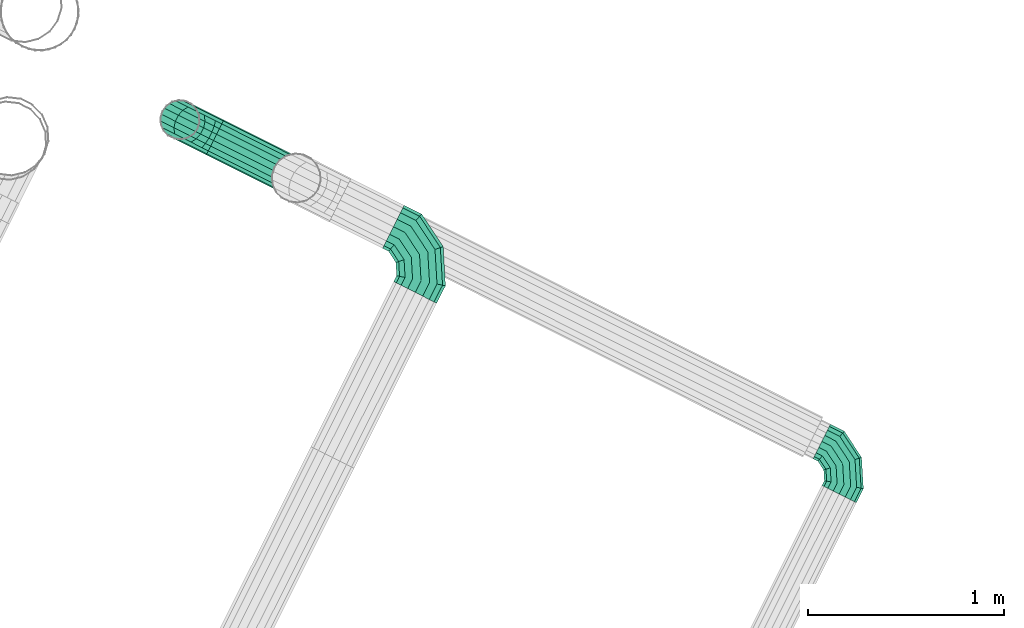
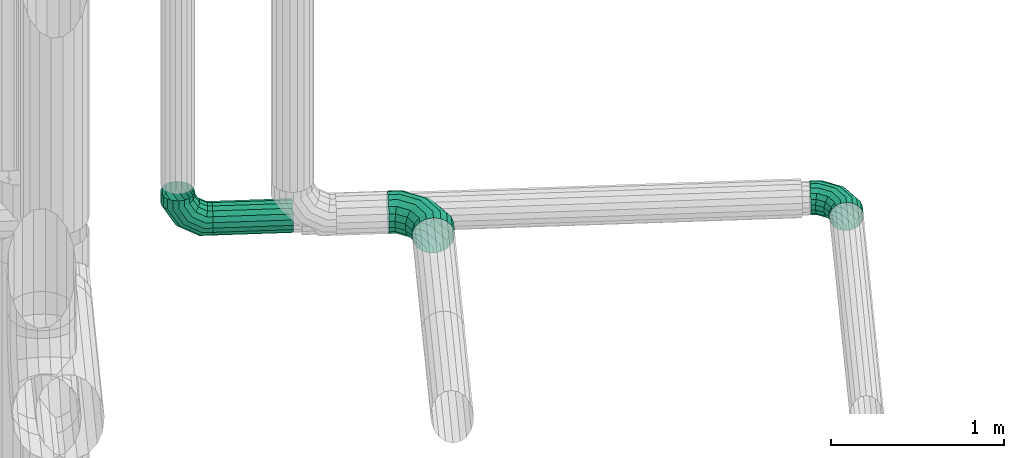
# One storey, part 164 of 206: 3 flow fittings, 1 flow segment.
"""IFC2X3 building model written with IfcOpenShell, lengths in metres."""

from ifc_helpers import new_model, si_unit, derived_unit, direction, frame, origin, place, context, subcontext, project, spatial, face_set, surface_model, source, transform, mapped, material, type_object, type_shapes, element, save


model = new_model("IFC2X3")

# Units and contexts
model_context = context("Model", 3, precision=5.2338327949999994e-05, world=origin(), true_north=direction((0.0, 1.0)))
body_context = subcontext(model_context, "Body", "Model", "MODEL_VIEW")
ifc_project = project(units=[si_unit("LENGTHUNIT", "METRE"), si_unit("AREAUNIT", "SQUARE_METRE"), si_unit("VOLUMEUNIT", "CUBIC_METRE"), si_unit("MASSUNIT", "GRAM", prefix="KILO"), si_unit("PLANEANGLEUNIT", "RADIAN"), derived_unit("THERMALTRANSMITTANCEUNIT", [(si_unit("MASSUNIT", "GRAM", prefix="KILO"), 1), (si_unit("THERMODYNAMICTEMPERATUREUNIT", "KELVIN"), -1), (si_unit("TIMEUNIT", "SECOND"), -3)])], contexts=[model_context])

# Site, building, storey
site_placement = place(None, frame((0.0, 0.0, 0.0), z_axis=(0.0, 0.0, 1.0), x_axis=(0.8939966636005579, -0.4480736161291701, 0.0)))
site = spatial("IfcSite", under=ifc_project, at=site_placement, Name="Default", CompositionType="ELEMENT")
building_placement = place(site_placement, origin())
building = spatial("IfcBuilding", under=site, at=building_placement, CompositionType="ELEMENT")
storey_placement = place(building_placement, origin())
storey = spatial("IfcBuildingStorey", under=building, at=storey_placement, Name="Erdgeschoss", CompositionType="ELEMENT", Elevation=0.0)

# Flow fittings
ifc_material = material(Name="IfcSurfaceStyle #251447")
distribution_element_type_1 = type_object("IfcDistributionElementType", Name="Segmentbogen 4 teilig 293676:Segmentbogen 4 teilig 293676", material=ifc_material)
shared_shape_1 = source(origin(), body_context, "Body", "SurfaceModel", [
    surface_model("IfcFaceBasedSurfaceModel", [(28.73772098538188, 15.98711232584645, 2.075), (28.69496846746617, 15.98711232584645, 2.082538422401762), (28.69496846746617, 16.04264412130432, 2.082538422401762), (28.73772098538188, 16.054099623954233, 2.075), (28.657372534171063, 15.98711232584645, 2.1042444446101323), (28.657372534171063, 16.0325703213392, 2.1042444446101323), (28.629467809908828, 15.98711232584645, 2.137500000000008), (28.629467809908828, 16.025093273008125, 2.137500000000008), (28.614620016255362, 15.98711232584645, 2.178293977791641), (28.614620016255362, 16.02111481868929, 2.178293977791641), (28.614620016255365, 15.98711232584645, 2.221706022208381), (28.614620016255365, 16.02111481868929, 2.221706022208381), (28.629467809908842, 15.98711232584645, 2.2625000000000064), (28.629467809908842, 16.025093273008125, 2.2625000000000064), (28.657372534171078, 15.98711232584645, 2.295755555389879), (28.657372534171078, 16.0325703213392, 2.295755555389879), (28.694968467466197, 15.98711232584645, 2.3174615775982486), (28.694968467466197, 16.04264412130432, 2.3174615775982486), (28.737720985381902, 15.98711232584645, 2.324999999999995), (28.737720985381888, 16.054099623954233, 2.324999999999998), (28.780473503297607, 15.98711232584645, 2.3174615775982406), (28.780473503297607, 16.065555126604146, 2.3174615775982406), (28.818069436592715, 15.98711232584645, 2.295755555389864), (28.818069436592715, 16.075628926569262, 2.295755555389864), (28.845974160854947, 15.98711232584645, 2.262499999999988), (28.845974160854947, 16.08310597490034, 2.262499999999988), (28.860821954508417, 15.98711232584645, 2.221706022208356), (28.860821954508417, 16.08708442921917, 2.221706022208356), (28.860821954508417, 15.98711232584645, 2.1782939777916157), (28.860821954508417, 16.08708442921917, 2.1782939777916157), (28.84597416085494, 15.98711232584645, 2.1374999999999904), (28.84597416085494, 16.08310597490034, 2.1374999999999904), (28.818069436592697, 15.98711232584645, 2.104244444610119), (28.818069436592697, 16.075628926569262, 2.104244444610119), (28.78047350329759, 15.98711232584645, 2.0825384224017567), (28.78047350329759, 16.065555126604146, 2.0825384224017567), (28.639436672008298, 16.13882801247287, 2.0825384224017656), (28.6707336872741, 16.17012502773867, 2.0750000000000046), (28.611914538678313, 16.111305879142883, 2.1042444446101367), (28.591486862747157, 16.090878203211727, 2.1375000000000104), (28.580617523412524, 16.080008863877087, 2.1782939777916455), (28.580617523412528, 16.080008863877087, 2.2217060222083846), (28.59148686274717, 16.090878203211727, 2.262500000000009), (28.61191453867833, 16.111305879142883, 2.2957555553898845), (28.639436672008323, 16.13882801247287, 2.317461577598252), (28.67073368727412, 16.17012502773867, 2.3250000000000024), (28.702030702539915, 16.201422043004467, 2.3174615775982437), (28.729552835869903, 16.22894417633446, 2.2957555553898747), (28.74998051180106, 16.249371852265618, 2.2624999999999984), (28.7608498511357, 16.260241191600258, 2.221706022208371), (28.760849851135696, 16.260241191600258, 2.17829397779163), (28.74998051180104, 16.249371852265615, 2.1375), (28.729552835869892, 16.22894417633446, 2.1042444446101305), (28.702030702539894, 16.20142204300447, 2.08253842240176), (28.543252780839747, 16.194359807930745, 2.0825384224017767), (28.554708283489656, 16.237112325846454, 2.075000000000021), (28.533178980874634, 16.156763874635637, 2.1042444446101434), (28.525701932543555, 16.128859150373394, 2.1375000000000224), (28.521723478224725, 16.114011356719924, 2.1782939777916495), (28.521723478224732, 16.114011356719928, 2.2217060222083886), (28.525701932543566, 16.128859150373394, 2.262500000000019), (28.53317898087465, 16.156763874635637, 2.295755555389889), (28.54325278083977, 16.194359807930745, 2.31746157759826), (28.554708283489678, 16.237112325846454, 2.3250000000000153), (28.56616378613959, 16.279864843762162, 2.3174615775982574), (28.576237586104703, 16.31746077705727, 2.2957555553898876), (28.583714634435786, 16.345365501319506, 2.2625000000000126), (28.587693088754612, 16.36021329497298, 2.221706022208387), (28.587693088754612, 16.360213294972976, 2.178293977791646), (28.583714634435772, 16.345365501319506, 2.137500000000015), (28.576237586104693, 16.31746077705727, 2.1042444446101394), (28.566163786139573, 16.279864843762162, 2.0825384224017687), (28.48772098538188, 16.194359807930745, 2.08253842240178), (28.48772098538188, 16.237112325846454, 2.075000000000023), (28.48772098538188, 16.156763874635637, 2.1042444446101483), (28.487720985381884, 16.128859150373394, 2.1375000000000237), (28.487720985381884, 16.114011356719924, 2.178293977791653), (28.487720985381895, 16.114011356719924, 2.221706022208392), (28.487720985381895, 16.128859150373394, 2.262500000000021), (28.487720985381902, 16.156763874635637, 2.295755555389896), (28.487720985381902, 16.194359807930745, 2.3174615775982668), (28.487720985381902, 16.237112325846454, 2.3250000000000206), (28.487720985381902, 16.279864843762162, 2.3174615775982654), (28.487720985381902, 16.31746077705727, 2.295755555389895), (28.487720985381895, 16.345365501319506, 2.262500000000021), (28.487720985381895, 16.36021329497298, 2.221706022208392), (28.487720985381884, 16.36021329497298, 2.178293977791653), (28.487720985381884, 16.345365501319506, 2.1375000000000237), (28.48772098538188, 16.31746077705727, 2.1042444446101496), (28.48772098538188, 16.279864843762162, 2.0825384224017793)], [face_set([[[0, 1, 2, 3]], [[1, 4, 5, 2]], [[4, 6, 7, 5]], [[6, 8, 9, 7]], [[8, 10, 11, 9]], [[10, 12, 13, 11]], [[12, 14, 15, 13]], [[14, 16, 17, 15]], [[16, 18, 19, 17]], [[18, 20, 21, 19]], [[20, 22, 23, 21]], [[22, 24, 25, 23]], [[24, 26, 27, 25]], [[26, 28, 29, 27]], [[28, 30, 31, 29]], [[30, 32, 33, 31]], [[32, 34, 35, 33]], [[34, 0, 3, 35]], [[3, 2, 36, 37]], [[2, 5, 38, 36]], [[5, 7, 39, 38]], [[7, 9, 40, 39]], [[9, 11, 41, 40]], [[11, 13, 42, 41]], [[13, 15, 43, 42]], [[15, 17, 44, 43]], [[17, 19, 45, 44]], [[19, 21, 46, 45]], [[21, 23, 47, 46]], [[23, 25, 48, 47]], [[25, 27, 49, 48]], [[27, 29, 50, 49]], [[29, 31, 51, 50]], [[31, 33, 52, 51]], [[33, 35, 53, 52]], [[35, 3, 37, 53]], [[37, 36, 54, 55]], [[36, 38, 56, 54]], [[38, 39, 57, 56]], [[39, 40, 58, 57]], [[40, 41, 59, 58]], [[41, 42, 60, 59]], [[42, 43, 61, 60]], [[43, 44, 62, 61]], [[44, 45, 63, 62]], [[45, 46, 64, 63]], [[46, 47, 65, 64]], [[47, 48, 66, 65]], [[48, 49, 67, 66]], [[49, 50, 68, 67]], [[50, 51, 69, 68]], [[51, 52, 70, 69]], [[52, 53, 71, 70]], [[53, 37, 55, 71]], [[55, 54, 72, 73]], [[54, 56, 74, 72]], [[56, 57, 75, 74]], [[57, 58, 76, 75]], [[58, 59, 77, 76]], [[59, 60, 78, 77]], [[60, 61, 79, 78]], [[61, 62, 80, 79]], [[62, 63, 81, 80]], [[63, 64, 82, 81]], [[64, 65, 83, 82]], [[65, 66, 84, 83]], [[66, 67, 85, 84]], [[67, 68, 86, 85]], [[68, 69, 87, 86]], [[69, 70, 88, 87]], [[70, 71, 89, 88]], [[71, 55, 73, 89]]])]),
])
type_shapes(distribution_element_type_1, [shared_shape_1])
flow_fitting_1_placement = place(storey_placement, origin())
element("IfcFlowFitting", 1, at=flow_fitting_1_placement, inside=storey, type_object=distribution_element_type_1, material=ifc_material, Name="Segmentbogen 4 teilig", ObjectType="Segmentbogen 4 teilig", context=body_context, shape_type="MappedRepresentation", body=[
    mapped(shared_shape_1, transform((0.0, 0.0, 0.0), scale=1.0)),
])
distribution_element_type_2 = type_object("IfcDistributionElementType", Name="Segmentbogen 4 teilig 617944:Segmentbogen 4 teilig 617944", material=ifc_material)
shared_shape_2 = source(origin(), body_context, "Body", "SurfaceModel", [
    surface_model("IfcFaceBasedSurfaceModel", [(30.935087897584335, 16.23711232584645, 2.3000000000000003), (30.935087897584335, 16.202910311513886, 2.293969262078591), (30.979513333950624, 16.202910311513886, 2.293969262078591), (30.988677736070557, 16.23711232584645, 2.3000000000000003), (30.935087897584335, 16.172833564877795, 2.276604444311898), (30.971454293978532, 16.172833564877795, 2.276604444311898), (30.935087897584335, 16.150509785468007, 2.250000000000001), (30.96547265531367, 16.150509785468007, 2.250000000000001), (30.935087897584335, 16.13863155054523, 2.217364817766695), (30.962289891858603, 16.13863155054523, 2.217364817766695), (30.935087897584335, 16.138631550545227, 2.1826351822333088), (30.962289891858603, 16.138631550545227, 2.1826351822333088), (30.935087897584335, 16.150509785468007, 2.1500000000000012), (30.96547265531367, 16.150509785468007, 2.1500000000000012), (30.935087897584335, 16.172833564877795, 2.123395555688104), (30.971454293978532, 16.172833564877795, 2.123395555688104), (30.935087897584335, 16.202910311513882, 2.1060307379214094), (30.979513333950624, 16.202910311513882, 2.1060307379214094), (30.935087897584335, 16.23711232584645, 2.0999999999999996), (30.988677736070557, 16.23711232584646, 2.100000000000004), (30.935087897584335, 16.271314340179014, 2.10603073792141), (30.99784213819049, 16.271314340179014, 2.10603073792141), (30.935087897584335, 16.3013910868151, 2.1233955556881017), (31.00590117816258, 16.3013910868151, 2.1233955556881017), (30.935087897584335, 16.323714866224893, 2.1499999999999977), (31.01188281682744, 16.323714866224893, 2.1499999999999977), (30.935087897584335, 16.335593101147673, 2.1826351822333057), (31.015065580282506, 16.335593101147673, 2.1826351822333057), (30.935087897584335, 16.335593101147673, 2.2173648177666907), (31.015065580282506, 16.335593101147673, 2.2173648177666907), (30.935087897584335, 16.323714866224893, 2.249999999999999), (31.01188281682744, 16.323714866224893, 2.249999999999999), (30.935087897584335, 16.3013910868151, 2.2766044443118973), (31.00590117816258, 16.3013910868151, 2.2766044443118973), (30.935087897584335, 16.271314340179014, 2.293969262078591), (30.99784213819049, 16.271314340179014, 2.293969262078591), (31.05646044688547, 16.158484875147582, 2.293969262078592), (31.081498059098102, 16.183522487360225, 2.3000000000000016), (31.034442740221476, 16.136467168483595, 2.2766044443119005), (31.018100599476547, 16.120125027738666, 2.250000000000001), (31.00940512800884, 16.111429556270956, 2.2173648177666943), (31.00940512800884, 16.111429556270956, 2.182635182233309), (31.018100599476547, 16.12012502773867, 2.1500000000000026), (31.034442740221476, 16.13646716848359, 2.1233955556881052), (31.05646044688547, 16.158484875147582, 2.1060307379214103), (31.081498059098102, 16.183522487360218, 2.1000000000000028), (31.10653567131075, 16.20856009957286, 2.106030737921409), (31.12855337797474, 16.23057780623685, 2.123395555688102), (31.144895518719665, 16.24691994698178, 2.1500000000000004), (31.15359099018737, 16.25561541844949, 2.1826351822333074), (31.15359099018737, 16.255615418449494, 2.217364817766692), (31.144895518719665, 16.246919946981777, 2.2499999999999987), (31.12855337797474, 16.23057780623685, 2.2766044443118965), (31.10653567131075, 16.20856009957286, 2.29396926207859), (31.10088588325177, 16.081537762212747, 2.293969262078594), (31.135087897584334, 16.090702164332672, 2.300000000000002), (31.070809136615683, 16.073478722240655, 2.276604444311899), (31.048485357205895, 16.067497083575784, 2.2500000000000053), (31.036607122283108, 16.06431432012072, 2.2173648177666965), (31.036607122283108, 16.06431432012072, 2.1826351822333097), (31.048485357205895, 16.067497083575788, 2.150000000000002), (31.070809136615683, 16.073478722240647, 2.1233955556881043), (31.10088588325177, 16.081537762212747, 2.1060307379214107), (31.135087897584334, 16.090702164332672, 2.1000000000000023), (31.169289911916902, 16.0998665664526, 2.106030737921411), (31.19936665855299, 16.107925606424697, 2.123395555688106), (31.221690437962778, 16.113907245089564, 2.1500000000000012), (31.233568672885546, 16.117090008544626, 2.182635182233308), (31.233568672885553, 16.117090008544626, 2.2173648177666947), (31.221690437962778, 16.113907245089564, 2.250000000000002), (31.19936665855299, 16.107925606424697, 2.276604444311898), (31.169289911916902, 16.0998665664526, 2.293969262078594), (31.100885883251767, 16.03711232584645, 2.2939692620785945), (31.135087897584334, 16.037112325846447, 2.300000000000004), (31.070809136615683, 16.037112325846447, 2.276604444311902), (31.048485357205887, 16.03711232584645, 2.250000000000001), (31.036607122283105, 16.03711232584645, 2.2173648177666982), (31.036607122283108, 16.03711232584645, 2.18263518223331), (31.048485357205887, 16.03711232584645, 2.1500000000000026), (31.070809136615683, 16.037112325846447, 2.1233955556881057), (31.100885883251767, 16.037112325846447, 2.1060307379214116), (31.135087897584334, 16.037112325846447, 2.1000000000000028), (31.169289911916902, 16.037112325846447, 2.106030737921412), (31.199366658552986, 16.037112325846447, 2.1233955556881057), (31.221690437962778, 16.03711232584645, 2.1500000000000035), (31.233568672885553, 16.03711232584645, 2.182635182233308), (31.233568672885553, 16.03711232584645, 2.217364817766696), (31.221690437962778, 16.03711232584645, 2.250000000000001), (31.19936665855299, 16.037112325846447, 2.2766044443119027), (31.169289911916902, 16.03711232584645, 2.2939692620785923)], [face_set([[[0, 1, 2, 3]], [[1, 4, 5, 2]], [[4, 6, 7, 5]], [[6, 8, 9, 7]], [[8, 10, 11, 9]], [[10, 12, 13, 11]], [[12, 14, 15, 13]], [[14, 16, 17, 15]], [[16, 18, 19, 17]], [[18, 20, 21, 19]], [[20, 22, 23, 21]], [[22, 24, 25, 23]], [[24, 26, 27, 25]], [[26, 28, 29, 27]], [[28, 30, 31, 29]], [[30, 32, 33, 31]], [[32, 34, 35, 33]], [[34, 0, 3, 35]], [[3, 2, 36, 37]], [[2, 5, 38, 36]], [[5, 7, 39, 38]], [[7, 9, 40, 39]], [[9, 11, 41, 40]], [[11, 13, 42, 41]], [[13, 15, 43, 42]], [[15, 17, 44, 43]], [[17, 19, 45, 44]], [[19, 21, 46, 45]], [[21, 23, 47, 46]], [[23, 25, 48, 47]], [[25, 27, 49, 48]], [[27, 29, 50, 49]], [[29, 31, 51, 50]], [[31, 33, 52, 51]], [[33, 35, 53, 52]], [[35, 3, 37, 53]], [[37, 36, 54, 55]], [[36, 38, 56, 54]], [[38, 39, 57, 56]], [[39, 40, 58, 57]], [[40, 41, 59, 58]], [[41, 42, 60, 59]], [[42, 43, 61, 60]], [[43, 44, 62, 61]], [[44, 45, 63, 62]], [[45, 46, 64, 63]], [[46, 47, 65, 64]], [[47, 48, 66, 65]], [[48, 49, 67, 66]], [[49, 50, 68, 67]], [[50, 51, 69, 68]], [[51, 52, 70, 69]], [[52, 53, 71, 70]], [[53, 37, 55, 71]], [[55, 54, 72, 73]], [[54, 56, 74, 72]], [[56, 57, 75, 74]], [[57, 58, 76, 75]], [[58, 59, 77, 76]], [[59, 60, 78, 77]], [[60, 61, 79, 78]], [[61, 62, 80, 79]], [[62, 63, 81, 80]], [[63, 64, 82, 81]], [[64, 65, 83, 82]], [[65, 66, 84, 83]], [[66, 67, 85, 84]], [[67, 68, 86, 85]], [[68, 69, 87, 86]], [[69, 70, 88, 87]], [[70, 71, 89, 88]], [[71, 55, 73, 89]]])]),
])
type_shapes(distribution_element_type_2, [shared_shape_2])
flow_fitting_2_placement = place(storey_placement, origin())
element("IfcFlowFitting", 2, at=flow_fitting_2_placement, inside=storey, type_object=distribution_element_type_2, material=ifc_material, Name="Segmentbogen 4 teilig", ObjectType="Segmentbogen 4 teilig", context=body_context, shape_type="MappedRepresentation", body=[
    mapped(shared_shape_2, transform((0.0, 0.0, 0.0), scale=1.0)),
])
distribution_element_type_3 = type_object("IfcDistributionElementType", Name="Segmentbogen 4 teilig 618684:Segmentbogen 4 teilig 618684", material=ifc_material)
shared_shape_3 = source(origin(), body_context, "Body", "SurfaceModel", [
    surface_model("IfcFaceBasedSurfaceModel", [(27.269385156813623, 16.33711232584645, 2.3999999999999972), (27.303587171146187, 16.33108158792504, 2.3999999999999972), (27.303587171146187, 16.33108158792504, 2.355574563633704), (27.269385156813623, 16.33711232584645, 2.346410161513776), (27.333663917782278, 16.31371677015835, 2.3999999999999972), (27.333663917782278, 16.31371677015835, 2.363633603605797), (27.355987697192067, 16.287112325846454, 2.3999999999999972), (27.355987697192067, 16.287112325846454, 2.3696152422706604), (27.367865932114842, 16.254477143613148, 2.3999999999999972), (27.367865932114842, 16.254477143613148, 2.3727980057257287), (27.367865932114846, 16.21974750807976, 2.3999999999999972), (27.367865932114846, 16.21974750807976, 2.3727980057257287), (27.355987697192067, 16.18711232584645, 2.3999999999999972), (27.355987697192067, 16.18711232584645, 2.3696152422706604), (27.33366391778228, 16.160507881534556, 2.3999999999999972), (27.33366391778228, 16.160507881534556, 2.363633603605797), (27.303587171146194, 16.14314306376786, 2.3999999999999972), (27.303587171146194, 16.14314306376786, 2.355574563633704), (27.269385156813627, 16.13711232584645, 2.3999999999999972), (27.269385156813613, 16.137112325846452, 2.346410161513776), (27.235183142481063, 16.14314306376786, 2.3999999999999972), (27.235183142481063, 16.14314306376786, 2.3372457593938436), (27.205106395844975, 16.160507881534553, 2.3999999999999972), (27.205106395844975, 16.160507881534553, 2.329186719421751), (27.182782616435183, 16.18711232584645, 2.3999999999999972), (27.182782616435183, 16.18711232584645, 2.3232050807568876), (27.170904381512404, 16.219747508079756, 2.3999999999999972), (27.170904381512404, 16.219747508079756, 2.320022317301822), (27.170904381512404, 16.25447714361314, 2.3999999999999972), (27.170904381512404, 16.25447714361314, 2.320022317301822), (27.182782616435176, 16.28711232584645, 2.3999999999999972), (27.182782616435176, 16.28711232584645, 2.3232050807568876), (27.20510639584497, 16.313716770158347, 2.3999999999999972), (27.20510639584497, 16.313716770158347, 2.329186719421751), (27.235183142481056, 16.33108158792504, 2.3999999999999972), (27.235183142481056, 16.33108158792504, 2.3372457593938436), (27.348012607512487, 16.331081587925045, 2.2786274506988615), (27.322974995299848, 16.33711232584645, 2.2535898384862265), (27.37003031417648, 16.31371677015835, 2.3006451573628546), (27.386372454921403, 16.287112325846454, 2.3169872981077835), (27.39506792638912, 16.254477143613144, 2.3256827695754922), (27.39506792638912, 16.21974750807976, 2.325682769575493), (27.386372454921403, 16.18711232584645, 2.316987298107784), (27.370030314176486, 16.160507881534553, 2.3006451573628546), (27.348012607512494, 16.14314306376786, 2.278627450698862), (27.32297499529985, 16.137112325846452, 2.2535898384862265), (27.297937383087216, 16.143143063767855, 2.228552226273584), (27.275919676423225, 16.16050788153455, 2.2065345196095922), (27.259577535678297, 16.18711232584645, 2.1901923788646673), (27.25088206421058, 16.21974750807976, 2.181496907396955), (27.25088206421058, 16.254477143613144, 2.1814969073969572), (27.259577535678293, 16.28711232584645, 2.190192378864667), (27.275919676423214, 16.31371677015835, 2.206534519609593), (27.297937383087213, 16.331081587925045, 2.2285522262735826), (27.424959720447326, 16.33108158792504, 2.234202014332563), (27.415795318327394, 16.33711232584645, 2.199999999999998), (27.43301876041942, 16.31371677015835, 2.2642787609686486), (27.439000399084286, 16.287112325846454, 2.2866025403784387), (27.442183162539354, 16.254477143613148, 2.298480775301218), (27.442183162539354, 16.21974750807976, 2.2984807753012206), (27.439000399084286, 16.187112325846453, 2.28660254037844), (27.433018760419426, 16.160507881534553, 2.2642787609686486), (27.42495972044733, 16.14314306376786, 2.234202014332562), (27.4157953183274, 16.137112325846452, 2.1999999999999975), (27.406630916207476, 16.14314306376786, 2.1657979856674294), (27.39857187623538, 16.160507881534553, 2.135721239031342), (27.39259023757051, 16.187112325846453, 2.113397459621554), (27.389407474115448, 16.21974750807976, 2.1015192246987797), (27.389407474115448, 16.254477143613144, 2.1015192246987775), (27.39259023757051, 16.28711232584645, 2.113397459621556), (27.398571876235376, 16.31371677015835, 2.1357212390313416), (27.406630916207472, 16.331081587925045, 2.16579798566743), (27.46938515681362, 16.331081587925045, 2.2342020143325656), (27.46938515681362, 16.33711232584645, 2.1999999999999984), (27.469385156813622, 16.31371677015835, 2.2642787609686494), (27.46938515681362, 16.287112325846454, 2.2866025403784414), (27.46938515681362, 16.254477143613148, 2.2984807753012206), (27.469385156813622, 16.21974750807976, 2.2984807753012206), (27.469385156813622, 16.187112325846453, 2.286602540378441), (27.46938515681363, 16.160507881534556, 2.2642787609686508), (27.46938515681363, 16.143143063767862, 2.2342020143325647), (27.46938515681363, 16.137112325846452, 2.199999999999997), (27.46938515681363, 16.14314306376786, 2.1657979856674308), (27.46938515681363, 16.160507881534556, 2.135721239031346), (27.469385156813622, 16.187112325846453, 2.113397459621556), (27.469385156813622, 16.21974750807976, 2.101519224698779), (27.46938515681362, 16.254477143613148, 2.101519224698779), (27.46938515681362, 16.287112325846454, 2.1133974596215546), (27.469385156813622, 16.31371677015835, 2.1357212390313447), (27.46938515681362, 16.331081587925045, 2.1657979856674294)], [face_set([[[0, 1, 2, 3]], [[1, 4, 5, 2]], [[4, 6, 7, 5]], [[6, 8, 9, 7]], [[8, 10, 11, 9]], [[10, 12, 13, 11]], [[12, 14, 15, 13]], [[14, 16, 17, 15]], [[16, 18, 19, 17]], [[18, 20, 21, 19]], [[20, 22, 23, 21]], [[22, 24, 25, 23]], [[24, 26, 27, 25]], [[26, 28, 29, 27]], [[28, 30, 31, 29]], [[30, 32, 33, 31]], [[32, 34, 35, 33]], [[34, 0, 3, 35]], [[3, 2, 36, 37]], [[2, 5, 38, 36]], [[5, 7, 39, 38]], [[7, 9, 40, 39]], [[9, 11, 41, 40]], [[11, 13, 42, 41]], [[13, 15, 43, 42]], [[15, 17, 44, 43]], [[17, 19, 45, 44]], [[19, 21, 46, 45]], [[21, 23, 47, 46]], [[23, 25, 48, 47]], [[25, 27, 49, 48]], [[27, 29, 50, 49]], [[29, 31, 51, 50]], [[31, 33, 52, 51]], [[33, 35, 53, 52]], [[35, 3, 37, 53]], [[37, 36, 54, 55]], [[36, 38, 56, 54]], [[38, 39, 57, 56]], [[39, 40, 58, 57]], [[40, 41, 59, 58]], [[41, 42, 60, 59]], [[42, 43, 61, 60]], [[43, 44, 62, 61]], [[44, 45, 63, 62]], [[45, 46, 64, 63]], [[46, 47, 65, 64]], [[47, 48, 66, 65]], [[48, 49, 67, 66]], [[49, 50, 68, 67]], [[50, 51, 69, 68]], [[51, 52, 70, 69]], [[52, 53, 71, 70]], [[53, 37, 55, 71]], [[55, 54, 72, 73]], [[54, 56, 74, 72]], [[56, 57, 75, 74]], [[57, 58, 76, 75]], [[58, 59, 77, 76]], [[59, 60, 78, 77]], [[60, 61, 79, 78]], [[61, 62, 80, 79]], [[62, 63, 81, 80]], [[63, 64, 82, 81]], [[64, 65, 83, 82]], [[65, 66, 84, 83]], [[66, 67, 85, 84]], [[67, 68, 86, 85]], [[68, 69, 87, 86]], [[69, 70, 88, 87]], [[70, 71, 89, 88]], [[71, 55, 73, 89]]])]),
])
type_shapes(distribution_element_type_3, [shared_shape_3])
flow_fitting_3_placement = place(storey_placement, origin())
element("IfcFlowFitting", 3, at=flow_fitting_3_placement, inside=storey, type_object=distribution_element_type_3, material=ifc_material, Name="Segmentbogen 4 teilig", ObjectType="Segmentbogen 4 teilig", context=body_context, shape_type="MappedRepresentation", body=[
    mapped(shared_shape_3, transform((0.0, 0.0, 0.0), scale=1.0)),
])

# Flow segment
distribution_element_type_4 = type_object("IfcDistributionElementType", Name="Wickelfalzrohr 618707:Wickelfalzrohr 618707", material=ifc_material)
shared_shape_4 = source(origin(), body_context, "Body", "SurfaceModel", [
    surface_model("IfcFaceBasedSurfaceModel", [(27.93508789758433, 16.137112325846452, 2.2000000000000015), (27.93508789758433, 16.143143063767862, 2.2342020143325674), (27.46938515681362, 16.143143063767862, 2.2342020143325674), (27.46938515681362, 16.137112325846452, 2.1999999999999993), (27.93508789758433, 16.160507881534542, 2.26427876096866), (27.46938515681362, 16.16050788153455, 2.2642787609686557), (27.93508789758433, 16.187112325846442, 2.286602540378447), (27.46938515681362, 16.18711232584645, 2.2866025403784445), (27.93508789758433, 16.219747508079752, 2.2984807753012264), (27.46938515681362, 16.21974750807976, 2.2984807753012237), (27.93508789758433, 16.254477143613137, 2.2984807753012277), (27.46938515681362, 16.254477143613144, 2.2984807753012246), (27.93508789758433, 16.287112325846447, 2.286602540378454), (27.46938515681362, 16.28711232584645, 2.2866025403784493), (27.93508789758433, 16.313716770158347, 2.2642787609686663), (27.46938515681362, 16.313716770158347, 2.26427876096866), (27.93508789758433, 16.331081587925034, 2.2342020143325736), (27.46938515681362, 16.331081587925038, 2.234202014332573), (27.93508789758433, 16.33711232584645, 2.200000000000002), (27.46938515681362, 16.33711232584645, 2.2000000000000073), (27.93508789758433, 16.33108158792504, 2.165797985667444), (27.46938515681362, 16.33108158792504, 2.165797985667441), (27.93508789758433, 16.313716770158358, 2.135721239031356), (27.46938515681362, 16.313716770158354, 2.135721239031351), (27.93508789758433, 16.287112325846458, 2.113397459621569), (27.46938515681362, 16.287112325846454, 2.1133974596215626), (27.93508789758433, 16.254477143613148, 2.1015192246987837), (27.46938515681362, 16.25447714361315, 2.1015192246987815), (27.93508789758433, 16.21974750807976, 2.1015192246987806), (27.46938515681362, 16.219747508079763, 2.101519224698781), (27.93508789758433, 16.187112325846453, 2.1133974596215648), (27.46938515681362, 16.187112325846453, 2.1133974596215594), (27.93508789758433, 16.160507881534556, 2.1357212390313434), (27.46938515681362, 16.160507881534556, 2.1357212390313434), (27.93508789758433, 16.14314306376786, 2.165797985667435), (27.46938515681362, 16.14314306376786, 2.165797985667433)], [face_set([[[0, 1, 2, 3]], [[1, 4, 5, 2]], [[4, 6, 7, 5]], [[6, 8, 9, 7]], [[8, 10, 11, 9]], [[10, 12, 13, 11]], [[12, 14, 15, 13]], [[14, 16, 17, 15]], [[16, 18, 19, 17]], [[18, 20, 21, 19]], [[20, 22, 23, 21]], [[22, 24, 25, 23]], [[24, 26, 27, 25]], [[26, 28, 29, 27]], [[28, 30, 31, 29]], [[30, 32, 33, 31]], [[32, 34, 35, 33]], [[34, 0, 3, 35]]])]),
])
type_shapes(distribution_element_type_4, [shared_shape_4])
flow_segment_placement = place(storey_placement, origin())
element("IfcFlowSegment", 4, at=flow_segment_placement, inside=storey, type_object=distribution_element_type_4, material=ifc_material, Name="Wickelfalzrohr", ObjectType="Wickelfalzrohr", context=body_context, shape_type="MappedRepresentation", body=[
    mapped(shared_shape_4, transform((0.0, 0.0, 0.0), scale=1.0)),
])

save(model, "model.ifc")
